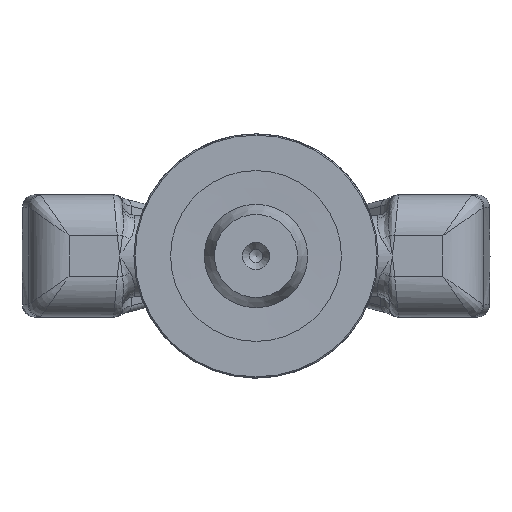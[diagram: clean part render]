
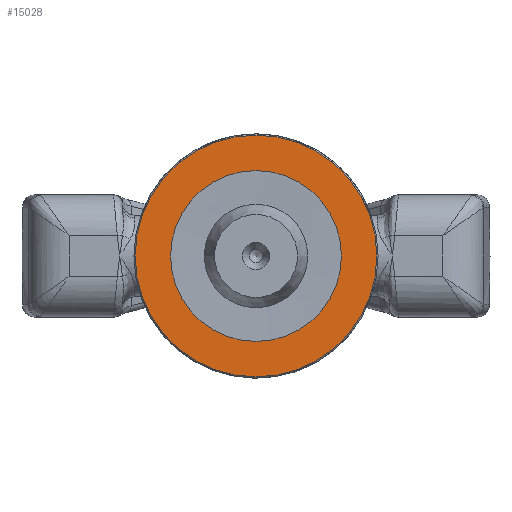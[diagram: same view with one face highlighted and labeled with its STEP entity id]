
A CAD part, front view. The second image highlights one B-rep face of the part: STEP entity #15028.
In plain terms, the highlighted planar face has unit normal (0, -1, 0) as drawn and (0, 0, -1) by its records, which use the part's own axes.
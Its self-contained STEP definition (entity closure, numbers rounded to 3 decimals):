
#128=FACE_BOUND('',#4517,.T.);
#2879=PLANE('',#16109);
#3585=FACE_OUTER_BOUND('',#4516,.T.);
#4516=EDGE_LOOP('',(#12453));
#4517=EDGE_LOOP('',(#12454));
#5175=CIRCLE('',#16106,29.7);
#5177=CIRCLE('',#16110,21.);
#6935=VERTEX_POINT('',#42863);
#6937=VERTEX_POINT('',#42869);
#8893=EDGE_CURVE('',#6935,#6935,#5175,.T.);
#8895=EDGE_CURVE('',#6937,#6937,#5177,.T.);
#12453=ORIENTED_EDGE('',*,*,#8893,.F.);
#12454=ORIENTED_EDGE('',*,*,#8895,.F.);
#15028=ADVANCED_FACE('',(#3585,#128),#2879,.F.);
#16106=AXIS2_PLACEMENT_3D('',#42864,#18265,#18266);
#16109=AXIS2_PLACEMENT_3D('',#42868,#18271,#18272);
#16110=AXIS2_PLACEMENT_3D('',#42870,#18273,#18274);
#18265=DIRECTION('center_axis',(0.,0.,1.));
#18266=DIRECTION('ref_axis',(-1.,0.,0.));
#18271=DIRECTION('center_axis',(0.,0.,1.));
#18272=DIRECTION('ref_axis',(1.,0.,0.));
#18273=DIRECTION('center_axis',(0.,0.,-1.));
#18274=DIRECTION('ref_axis',(-1.,0.,0.));
#42863=CARTESIAN_POINT('',(29.7,0.,0.));
#42864=CARTESIAN_POINT('Origin',(0.,0.,0.));
#42868=CARTESIAN_POINT('Origin',(0.,0.,0.));
#42869=CARTESIAN_POINT('',(21.,0.,0.));
#42870=CARTESIAN_POINT('Origin',(0.,0.,0.));
